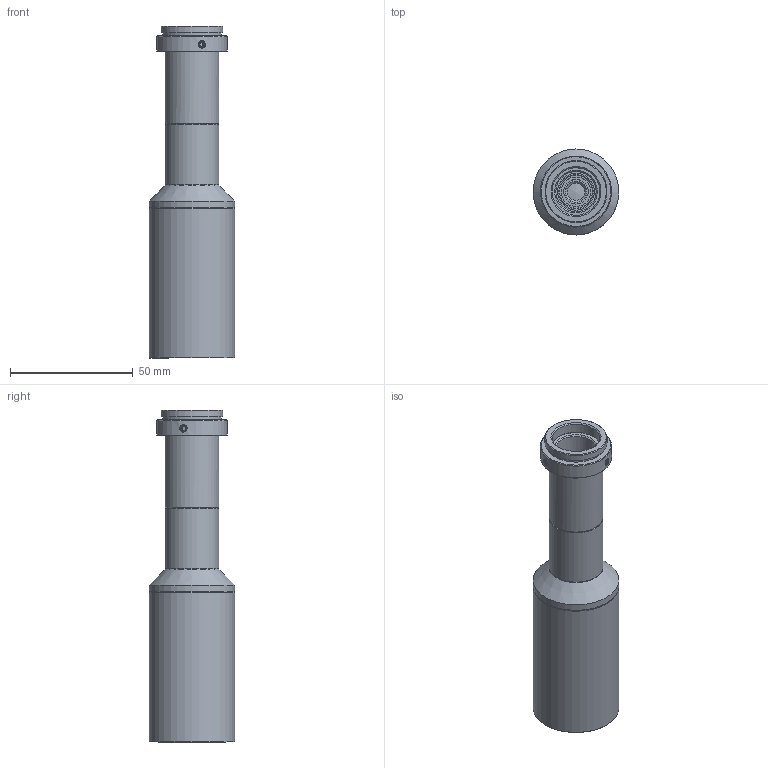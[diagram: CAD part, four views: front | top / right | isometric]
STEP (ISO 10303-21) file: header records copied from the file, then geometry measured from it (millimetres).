
FILE_DESCRIPTION(('STEP AP214'),'1');
FILE_NAME('RTK-05-M110.stp','2026-07-31T09:09:08',(' '),(' '),'Spatial InterOp 3D',' ',' ');
FILE_SCHEMA(('AUTOMOTIVE_DESIGN { 1 0 10303 214 1 1 1 1 }'));
Length unit declared in the file: metre
Products named in the file (2): RTK-05-M110; Component5
Assembly tree (1 placements, depth 2):
  RTK-05-M110
    Component5
Bounding box: 35 x 35 x 135.43 mm (x, y, z)
Volume: 42568.1 mm3; surface area: 27708.2 mm2
Topology: 1 solids, 9 shells, 204 faces, 440 edges, 292 vertices
Faces by surface type: plane 80, cone 63, cylinder 56, bspline 3, sphere 2
Full cylindrical faces by diameter (mm): 2.5 x6, 7 x1, 8.7 x1, 9.5 x1, 10 x1, 12 x2, 12.5 x1, 13 x1, 13.4 x1, 13.9 x1, 14.2 x1, 14.7 x1, 15 x1, 16.4 x1, 17.2 x2, 17.4 x1, 18 x1, 18.2 x2, 19 x4, 19.4 x1, 22 x4, 24.12 x1, 25.32 x1, 26.5 x1, 28 x1, 28.5 x2, 29 x1, 29.2 x1, 29.5 x1, 29.9 x2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
Entity records: 6896 total; most frequent: CARTESIAN_POINT 1305, DIRECTION 838, ORIENTED_EDGE 600, AXIS2_PLACEMENT_3D 375, EDGE_LOOP 360, EDGE_CURVE 300, FACE_OUTER_BOUND 261, VERTEX_POINT 257
